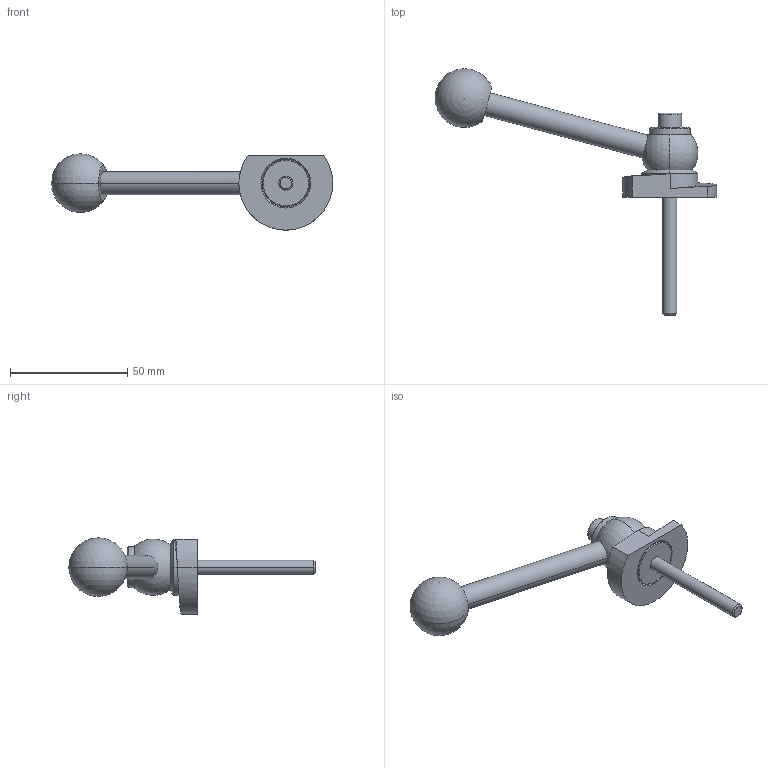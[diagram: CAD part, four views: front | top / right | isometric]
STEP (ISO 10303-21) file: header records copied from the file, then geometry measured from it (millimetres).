
FILE_DESCRIPTION (( 'STEP AP214' ), '1' );
FILE_NAME ('918.1-40-KVS-R-50.step', '2024-05-15T13:00:32', ( '' ), ( '' ), 'SwSTEP 2.0', 'SolidWorks 2022', '' );
FILE_SCHEMA (( 'AUTOMOTIVE_DESIGN' ));
Length unit declared in the file: millimetre
Products named in the file (1): 918.1-40-KVS-R-50
Bounding box: 119.95 x 104.99 x 32.5 mm (x, y, z)
Volume: 31163.9 mm3; surface area: 11778.5 mm2
Topology: 1 solids, 1 shells, 64 faces, 147 edges, 93 vertices
Faces by surface type: cylinder 22, plane 20, cone 14, sphere 4, torus 2, bspline 2
Entity records: 2045 total; most frequent: CARTESIAN_POINT 590, DIRECTION 321, ORIENTED_EDGE 274, EDGE_CURVE 137, AXIS2_PLACEMENT_3D 131, VERTEX_POINT 87, EDGE_LOOP 76, CIRCLE 68
